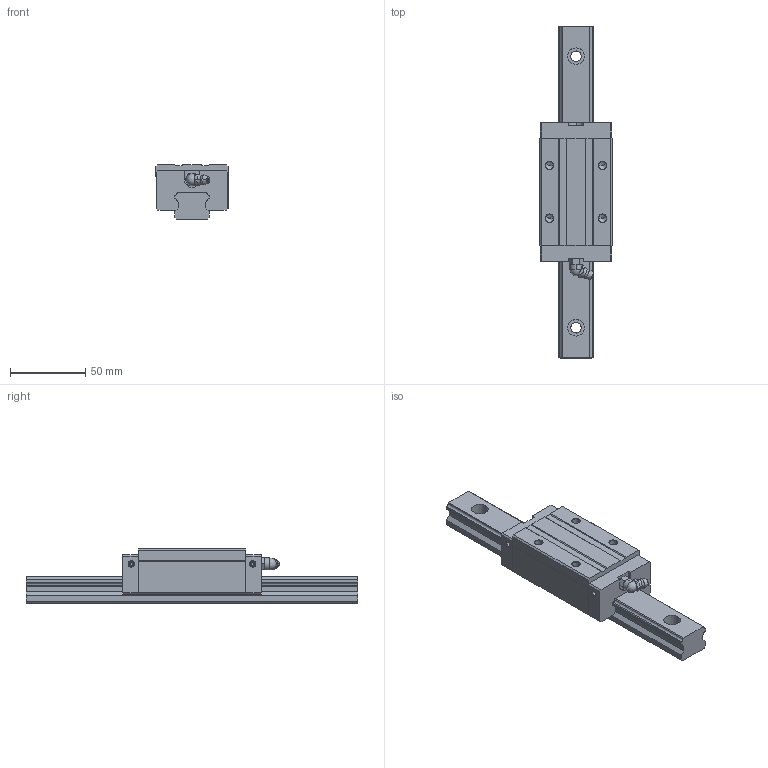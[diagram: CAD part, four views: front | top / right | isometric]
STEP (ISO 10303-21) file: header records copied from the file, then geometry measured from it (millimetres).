
FILE_DESCRIPTION((''),'1');
FILE_NAME(' ',' ',(''),(''),'ACIS Interop R16','Kubotek KeyCreator V6.5.2 (0407)',' ');
FILE_SCHEMA(('CONFIG_CONTROL_DESIGN'));
Length unit declared in the file: millimetre
Products named in the file (3): 1; 2; 3
Bounding box: 48 x 220 x 36 mm (x, y, z)
Volume: 104982.3 mm3; surface area: 39488.9 mm2
Topology: 2 solids, 48 shells, 216 faces, 691 edges, 531 vertices
Faces by surface type: plane 101, cylinder 74, cone 26, torus 10, sphere 3, bspline 2
Entity records: 7922 total; most frequent: CARTESIAN_POINT 1635, DIRECTION 1364, ORIENTED_EDGE 1102, EDGE_CURVE 681, VERTEX_POINT 531, AXIS2_PLACEMENT_3D 488, LINE 388, VECTOR 388
